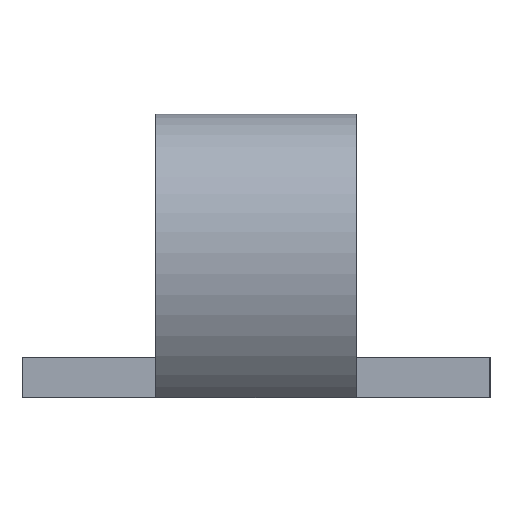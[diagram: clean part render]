
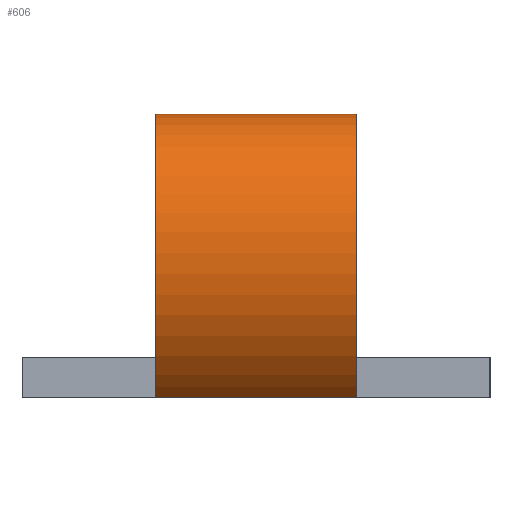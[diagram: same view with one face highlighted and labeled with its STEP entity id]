
A CAD part, left-side view. The second image highlights one B-rep face of the part: STEP entity #606.
In plain terms, the highlighted free-form (B-spline) face has degree [3, 1] with [4, 2] control points.
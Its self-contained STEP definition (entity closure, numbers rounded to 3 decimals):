
#44 = CARTESIAN_POINT ( 'NONE',  ( -1192.281, -850.539, 0. ) ) ;
#115 = CARTESIAN_POINT ( 'NONE',  ( -1192.281, -858.039, 0. ) ) ;
#166 = LINE ( 'NONE', #325, #486 ) ;
#172 = CARTESIAN_POINT ( 'NONE',  ( -1198.474, -858.039, 5.609 ) ) ;
#190 = EDGE_LOOP ( 'NONE', ( #315, #199, #615, #728 ) ) ;
#199 = ORIENTED_EDGE ( 'NONE', *, *, #526, .F. ) ;
#202 = CARTESIAN_POINT ( 'NONE',  ( -1198.474, -858.039, 5.609 ) ) ;
#213 = CARTESIAN_POINT ( 'NONE',  ( -1192.281, -858.039, 0. ) ) ;
#222 = CARTESIAN_POINT ( 'NONE',  ( -1179.355, -858.039, 3.426 ) ) ;
#230 = VERTEX_POINT ( 'NONE', #222 ) ;
#253 = B_SPLINE_CURVE_WITH_KNOTS ( 'NONE', 3,
 ( #475, #406, #443, #492 ),
 .UNSPECIFIED., .F., .F.,
 ( 4, 4 ),
 ( 0., 1. ),
 .UNSPECIFIED. ) ;
#255 = FACE_OUTER_BOUND ( 'NONE', #190, .T. ) ;
#277 = CARTESIAN_POINT ( 'NONE',  ( -1179.355, -850.539, 3.426 ) ) ;
#301 = CARTESIAN_POINT ( 'NONE',  ( -1191.985, -850.539, 18.796 ) ) ;
#315 = ORIENTED_EDGE ( 'NONE', *, *, #470, .F. ) ;
#324 = B_SPLINE_SURFACE_WITH_KNOTS ( 'NONE', 3, 1, ( 
 ( #277, #490 ),
 ( #301, #756 ),
 ( #546, #172 ),
 ( #44, #115 ) ),
 .UNSPECIFIED., .F., .F., .F.,
 ( 4, 4 ),
 ( 2, 2 ),
 ( 0., 1. ),
 ( 0., 1. ),
 .UNSPECIFIED. ) ;
#325 = CARTESIAN_POINT ( 'NONE',  ( -1179.355, -850.539, 3.426 ) ) ;
#355 = DIRECTION ( 'NONE',  ( 0., -1., 0. ) ) ;
#378 = EDGE_CURVE ( 'NONE', #616, #651, #253, .T. ) ;
#379 = VECTOR ( 'NONE', #355, 1000. ) ;
#406 = CARTESIAN_POINT ( 'NONE',  ( -1191.985, -850.539, 18.796 ) ) ;
#410 = CARTESIAN_POINT ( 'NONE',  ( -1192.281, -850.539, 0. ) ) ;
#443 = CARTESIAN_POINT ( 'NONE',  ( -1198.474, -850.539, 5.609 ) ) ;
#470 = EDGE_CURVE ( 'NONE', #230, #555, #738, .T. ) ;
#475 = CARTESIAN_POINT ( 'NONE',  ( -1179.355, -850.539, 3.426 ) ) ;
#486 = VECTOR ( 'NONE', #712, 1000. ) ;
#490 = CARTESIAN_POINT ( 'NONE',  ( -1179.355, -858.039, 3.426 ) ) ;
#492 = CARTESIAN_POINT ( 'NONE',  ( -1192.281, -850.539, 0. ) ) ;
#524 = LINE ( 'NONE', #701, #379 ) ;
#526 = EDGE_CURVE ( 'NONE', #616, #230, #166, .T. ) ;
#527 = CARTESIAN_POINT ( 'NONE',  ( -1179.355, -858.039, 3.426 ) ) ;
#546 = CARTESIAN_POINT ( 'NONE',  ( -1198.474, -850.539, 5.609 ) ) ;
#555 = VERTEX_POINT ( 'NONE', #711 ) ;
#587 = CARTESIAN_POINT ( 'NONE',  ( -1191.985, -858.039, 18.796 ) ) ;
#606 = ADVANCED_FACE ( 'NONE', ( #255 ), #324, .T. ) ;
#615 = ORIENTED_EDGE ( 'NONE', *, *, #378, .T. ) ;
#616 = VERTEX_POINT ( 'NONE', #640 ) ;
#640 = CARTESIAN_POINT ( 'NONE',  ( -1179.355, -850.539, 3.426 ) ) ;
#651 = VERTEX_POINT ( 'NONE', #410 ) ;
#662 = EDGE_CURVE ( 'NONE', #651, #555, #524, .T. ) ;
#701 = CARTESIAN_POINT ( 'NONE',  ( -1192.281, -850.539, 0. ) ) ;
#711 = CARTESIAN_POINT ( 'NONE',  ( -1192.281, -858.039, 0. ) ) ;
#712 = DIRECTION ( 'NONE',  ( 0., -1., 0. ) ) ;
#728 = ORIENTED_EDGE ( 'NONE', *, *, #662, .T. ) ;
#738 = B_SPLINE_CURVE_WITH_KNOTS ( 'NONE', 3,
 ( #527, #587, #202, #213 ),
 .UNSPECIFIED., .F., .F.,
 ( 4, 4 ),
 ( 0., 1. ),
 .UNSPECIFIED. ) ;
#756 = CARTESIAN_POINT ( 'NONE',  ( -1191.985, -858.039, 18.796 ) ) ;
